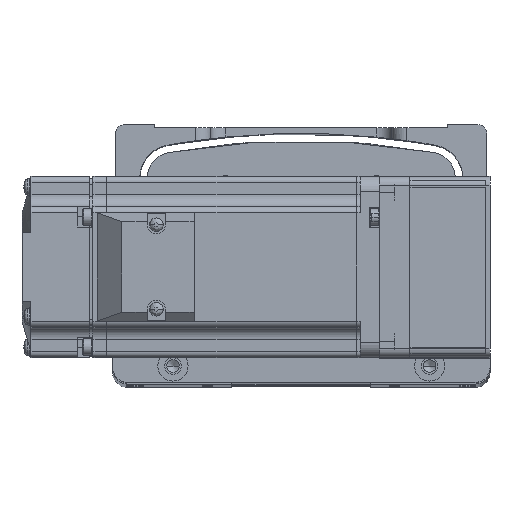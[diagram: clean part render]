
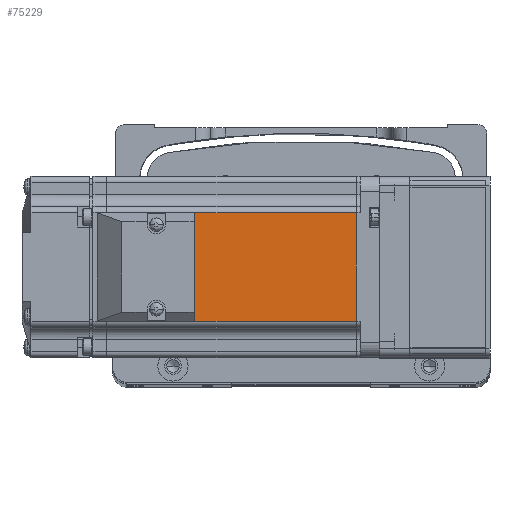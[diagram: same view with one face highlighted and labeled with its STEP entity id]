
A CAD part, top view. The second image highlights one B-rep face of the part: STEP entity #75229.
In plain terms, the highlighted planar face has unit normal (0, 0, 1) as drawn and (0, 1, 0) by its records, which use the part's own axes.
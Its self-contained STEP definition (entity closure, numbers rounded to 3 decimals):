
#767 = ORIENTED_EDGE ( 'NONE', *, *, #80948, .T. ) ;
#3133 = ORIENTED_EDGE ( 'NONE', *, *, #31551, .T. ) ;
#3231 = CARTESIAN_POINT ( 'NONE',  ( -90.45, 30., -18. ) ) ;
#4046 = CARTESIAN_POINT ( 'NONE',  ( -90.45, 30., 18. ) ) ;
#6921 = VERTEX_POINT ( 'NONE', #35209 ) ;
#9491 = PLANE ( 'NONE',  #17887 ) ;
#13859 = LINE ( 'NONE', #34946, #79078 ) ;
#16147 = DIRECTION ( 'NONE',  ( 0., 0., 1. ) ) ;
#17887 = AXIS2_PLACEMENT_3D ( 'NONE', #34915, #79070, #41273 ) ;
#22198 = VECTOR ( 'NONE', #75711, 1000. ) ;
#23064 = VECTOR ( 'NONE', #37744, 1000. ) ;
#31273 = CARTESIAN_POINT ( 'NONE',  ( -6.5, 30., 18. ) ) ;
#31551 = EDGE_CURVE ( 'NONE', #45227, #65949, #57821, .T. ) ;
#34915 = CARTESIAN_POINT ( 'NONE',  ( -6.5, 30., 25. ) ) ;
#34946 = CARTESIAN_POINT ( 'NONE',  ( -7.75, 30., 0. ) ) ;
#35209 = CARTESIAN_POINT ( 'NONE',  ( -7.75, 30., 18. ) ) ;
#36488 = CARTESIAN_POINT ( 'NONE',  ( -7.75, 30., -18. ) ) ;
#37744 = DIRECTION ( 'NONE',  ( -1., 0., 0. ) ) ;
#38075 = ORIENTED_EDGE ( 'NONE', *, *, #67134, .T. ) ;
#41273 = DIRECTION ( 'NONE',  ( 0., 0., 1. ) ) ;
#42345 = VECTOR ( 'NONE', #56099, 1000. ) ;
#43517 = EDGE_LOOP ( 'NONE', ( #69445, #767, #3133, #38075 ) ) ;
#45227 = VERTEX_POINT ( 'NONE', #3231 ) ;
#56099 = DIRECTION ( 'NONE',  ( 1., 0., 0. ) ) ;
#56635 = FACE_OUTER_BOUND ( 'NONE', #43517, .T. ) ;
#56648 = CARTESIAN_POINT ( 'NONE',  ( -90.45, 30., 0. ) ) ;
#57821 = LINE ( 'NONE', #56648, #22198 ) ;
#58915 = VERTEX_POINT ( 'NONE', #36488 ) ;
#63127 = CARTESIAN_POINT ( 'NONE',  ( -6.5, 30., -18. ) ) ;
#65949 = VERTEX_POINT ( 'NONE', #4046 ) ;
#66393 = EDGE_CURVE ( 'NONE', #58915, #6921, #13859, .T. ) ;
#67134 = EDGE_CURVE ( 'NONE', #65949, #6921, #75941, .T. ) ;
#69445 = ORIENTED_EDGE ( 'NONE', *, *, #66393, .F. ) ;
#71513 = LINE ( 'NONE', #63127, #23064 ) ;
#75229 = ADVANCED_FACE ( 'NONE', ( #56635 ), #9491, .T. ) ;
#75711 = DIRECTION ( 'NONE',  ( 0., 0., 1. ) ) ;
#75941 = LINE ( 'NONE', #31273, #42345 ) ;
#79070 = DIRECTION ( 'NONE',  ( 0., 1., 0. ) ) ;
#79078 = VECTOR ( 'NONE', #16147, 1000. ) ;
#80948 = EDGE_CURVE ( 'NONE', #58915, #45227, #71513, .T. ) ;
